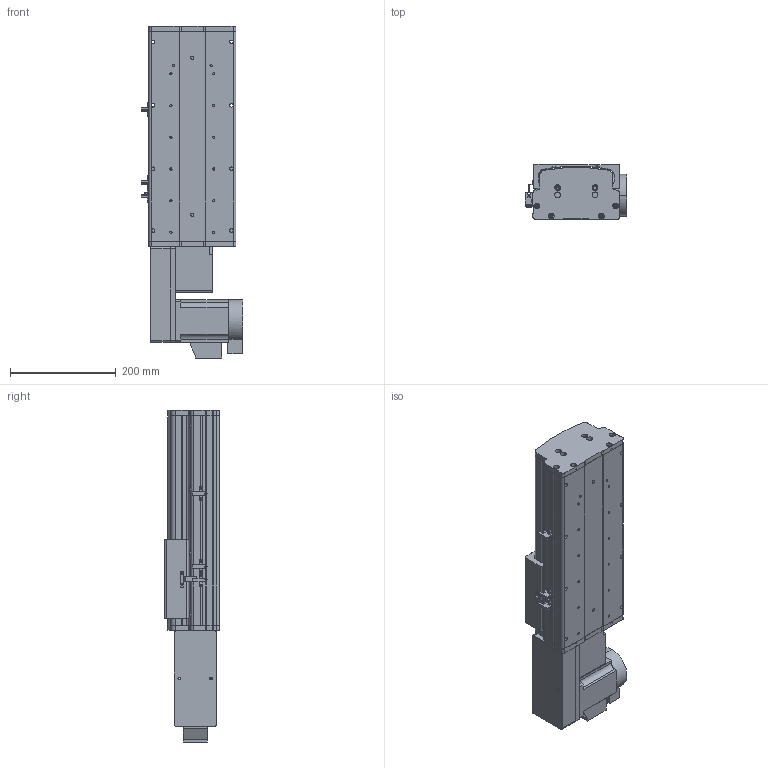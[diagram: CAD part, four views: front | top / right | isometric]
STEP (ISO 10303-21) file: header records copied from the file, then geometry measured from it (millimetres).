
FILE_DESCRIPTION (( 'STEP AP214' ), '1' );
FILE_NAME ('KSD165B-S150-MLB-CM .STEP', '2017-10-16T05:43:47', ( '微软用户' ), ( '微软中国' ), 'SwSTEP 2.0', 'SolidWorks 2014', '' );
FILE_SCHEMA (( 'AUTOMOTIVE_DESIGN' ));
Length unit declared in the file: millimetre
Products named in the file (17): 130宽模组马达安装板连板左右折同步带; 130宽模组保护罩上下左右折-同步带; 165宽马达安装板同步带左-改; KSD165模组-同步带防尘盖1-150行程-最新版; KSD165模组同步带底板-150行程-最新; 拸秶雄ん750W侜督萇儂; U倰嫖萇假蚾璃; U倰嫖萇EEㄜSX672; 覜茼え68遵圉猾敕; KSD165模组-同步带-防撞垫2; KSD165模组同步带-防撞垫1; KSD165耀郪-ヶ傷啣1-肮祭湍; KSD165模组-后端板1-同步带; KSD165模组-同步带滑动座-最新版; KSD165B-S150-MLB-CM ; HTPA26S5M250-A-H8 750W萇儂蚚; HTPA26S5M250-A-H8 400W萇儂蚚 
Assembly tree (20 placements, depth 2):
  KSD165B-S150-MLB-CM 
    KSD165模组-同步带滑动座-最新版
    KSD165模组-后端板1-同步带
    KSD165耀郪-ヶ傷啣1-肮祭湍
    KSD165模组同步带-防撞垫1
    KSD165模组-同步带-防撞垫2
    覜茼え68遵圉猾敕
    U倰嫖萇EEㄜSX672  x3
    U倰嫖萇假蚾璃  x3
    拸秶雄ん750W侜督萇儂
    KSD165模组同步带底板-150行程-最新
    KSD165模组-同步带防尘盖1-150行程-最新版
    165宽马达安装板同步带左-改
    130宽模组保护罩上下左右折-同步带
    130宽模组马达安装板连板左右折同步带
    HTPA26S5M250-A-H8 400W萇儂蚚 
    HTPA26S5M250-A-H8 750W萇儂蚚
Bounding box: 191.2 x 104 x 628 mm (x, y, z)
Volume: 4079759.1 mm3; surface area: 938980.1 mm2
Topology: 21 solids, 22 shells, 1853 faces, 5208 edges, 3396 vertices
Faces by surface type: cylinder 1165, plane 576, cone 112
Entity records: 59064 total; most frequent: CARTESIAN_POINT 12102, DIRECTION 9800, ORIENTED_EDGE 9076, EDGE_CURVE 4538, AXIS2_PLACEMENT_3D 3828, VERTEX_POINT 2988, CIRCLE 2172, VECTOR 2144
